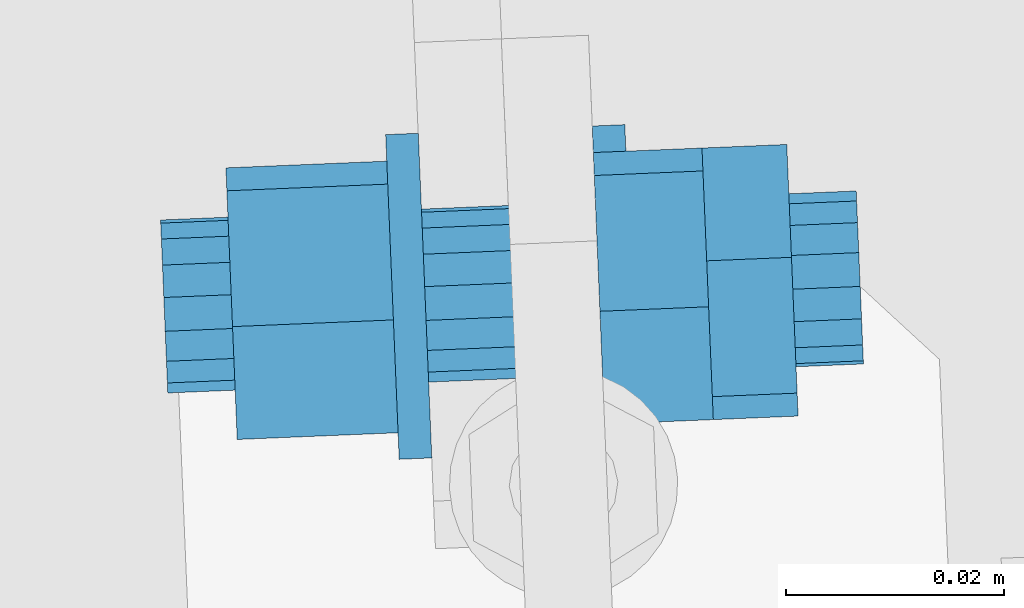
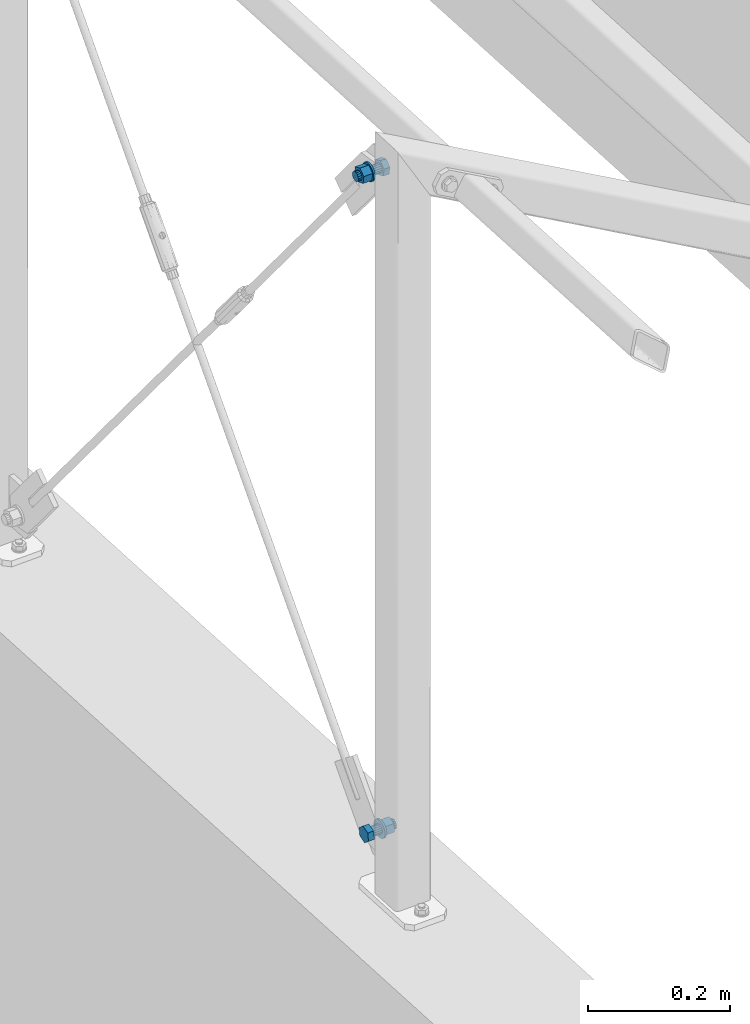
# One storey, part 222 of 288: 2 mechanical fasteners.
"""IFC2X3 building model written with IfcOpenShell, lengths in millimetres."""

from ifc_helpers import new_model, entity, si_unit, converted_unit, origin_with_axes, place, context, project, spatial, faceted_brep, element, save


model = new_model("IFC2X3")

# Units and contexts
model_context = context("Model", 3, precision=1e-09, world=origin_with_axes())
ifc_project = project(units=[si_unit("LENGTHUNIT", "METRE", prefix="MILLI"), si_unit("AREAUNIT", "SQUARE_METRE"), si_unit("VOLUMEUNIT", "CUBIC_METRE"), converted_unit("PLANEANGLEUNIT", "DEGREE", entity("IfcPlaneAngleMeasure", 0.01745329), si_unit("PLANEANGLEUNIT", "RADIAN"), dimensions=[0, 0, 0, 0, 0, 0, 0])], contexts=[model_context])

# Site, building, storey
site_placement = place(None, origin_with_axes())
site = spatial("IfcSite", under=ifc_project, at=site_placement, Name="Remont ?wietlik?w nad MC w NCPP w Opolu", CompositionType="ELEMENT")
building_placement = place(site_placement, origin_with_axes())
building = spatial("IfcBuilding", under=site, at=building_placement, Name="Konstrukcja 1", CompositionType="ELEMENT")
storey_placement = place(building_placement, origin_with_axes())
storey = spatial("IfcBuildingStorey", under=building, at=storey_placement, Name="Default Storey", CompositionType="ELEMENT", Elevation=0.0)

# Mechanical fasteners
mechanical_fastener_1_placement = place(None, origin_with_axes())
element("IfcMechanicalFastener", 1, at=mechanical_fastener_1_placement, inside=storey, ObjectType="Bolt#1", NominalDiameter=16.0, NominalLength=40.0, context=model_context, shape_type="Brep", body=[
    faceted_brep([(-433.647771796, 7109.61969111, 96.713451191), (-443.639085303, 7109.2029725, 96.713451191), (-443.118446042, 7096.720040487, 91.938938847), (-433.127132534, 7097.136759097, 91.938938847), (-443.030433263, 7094.609831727, 78.73174771), (-433.039119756, 7095.026550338, 78.73174771), (-443.463059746, 7104.98255498, 70.299068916), (-433.471746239, 7105.399273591, 70.299068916), (-443.983699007, 7117.465486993, 75.07358126), (-433.9923855, 7117.882205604, 75.07358126), (-444.071711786, 7119.575695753, 88.280772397), (-434.080398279, 7119.992414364, 88.280772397)], [[[0, 1, 2, 3]], [[3, 2, 4, 5]], [[5, 4, 6, 7]], [[7, 6, 8, 9]], [[9, 8, 10, 11]], [[11, 10, 1, 0]], [[4, 2, 1, 10, 8, 6]], [[0, 3, 5, 7, 9, 11]]]),
    faceted_brep([(-433.349572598, 7102.470018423, 77.29662037), (-417.363470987, 7103.1367682, 77.29662037), (-417.280444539, 7101.146112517, 79.699497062), (-433.26654615, 7100.47936274, 79.699497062), (-417.242057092, 7100.225728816, 82.681918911), (-433.228158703, 7099.558979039, 82.681918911), (-417.254152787, 7100.515737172, 85.789839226), (-433.240254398, 7099.848987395, 85.789839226), (-417.314890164, 7101.971986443, 88.550105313), (-433.300991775, 7101.305236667, 88.550105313), (-417.415022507, 7104.372775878, 90.542491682), (-433.401124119, 7103.706026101, 90.542491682), (-417.539305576, 7107.352607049, 91.463675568), (-433.525407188, 7106.685857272, 91.463675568), (-417.6688184, 7110.457827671, 91.173415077), (-433.654920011, 7109.791077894, 91.173415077), (-417.783843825, 7113.215696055, 89.715899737), (-433.769945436, 7112.548946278, 89.715899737), (-417.866870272, 7115.206351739, 87.313023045), (-433.852971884, 7114.539601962, 87.313023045), (-417.905257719, 7116.12673544, 84.330601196), (-433.891359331, 7115.459985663, 84.330601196), (-417.893162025, 7115.836727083, 81.22268088), (-433.879263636, 7115.169977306, 81.22268088), (-417.832424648, 7114.380477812, 78.462414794), (-433.818526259, 7113.713728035, 78.462414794), (-417.732292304, 7111.979688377, 76.470028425), (-433.718393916, 7111.3129386, 76.470028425), (-417.608009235, 7108.999857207, 75.548844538), (-433.594110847, 7108.33310743, 75.548844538), (-417.478496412, 7105.894636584, 75.839105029), (-433.464598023, 7105.227886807, 75.839105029)], [[[0, 1, 2, 3]], [[3, 2, 4, 5]], [[5, 4, 6, 7]], [[7, 6, 8, 9]], [[9, 8, 10, 11]], [[11, 10, 12, 13]], [[13, 12, 14, 15]], [[15, 14, 16, 17]], [[17, 16, 18, 19]], [[19, 18, 20, 21]], [[21, 20, 22, 23]], [[23, 22, 24, 25]], [[25, 24, 26, 27]], [[27, 26, 28, 29]], [[29, 28, 30, 31]], [[31, 30, 1, 0]], [[0, 3, 5, 7, 9, 11, 13, 15, 17, 19, 21, 23, 25, 27, 29, 31]], [[1, 30, 28, 26, 24, 22, 20, 18, 16, 14, 12, 10, 8, 6, 4, 2]]]),
    faceted_brep([(-417.17955787, 7098.727237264, 71.863185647), (-414.182163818, 7098.852252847, 71.863185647), (-414.095080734, 7096.764334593, 73.931914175), (-417.092474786, 7096.63931901, 73.931914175), (-414.026489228, 7095.11977344, 76.368579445), (-417.02388328, 7094.994757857, 76.368579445), (-413.979025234, 7093.981768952, 79.079541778), (-416.976419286, 7093.856753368, 79.079541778), (-413.954512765, 7093.394054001, 81.960620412), (-416.951906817, 7093.269038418, 81.960620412), (-413.953893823, 7093.379214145, 84.90109711), (-416.951287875, 7093.254198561, 84.90109711), (-413.977192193, 7093.93781967, 87.787971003), (-416.974586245, 7093.812804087, 87.787971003), (-414.023512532, 7095.048403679, 90.510301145), (-417.020906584, 7094.923388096, 90.510301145), (-414.091074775, 7096.668287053, 92.963469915), (-417.088468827, 7096.54327147, 92.963469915), (-414.177282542, 7098.735218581, 95.053203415), (-417.174676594, 7098.610202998, 95.053203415), (-414.278822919, 7101.169767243, 96.699194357), (-417.276216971, 7101.04475166, 96.699194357), (-414.391793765, 7103.878374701, 97.838188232), (-417.389187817, 7103.753359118, 97.838188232), (-414.511853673, 7106.756950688, 98.426414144), (-417.509247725, 7106.631935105, 98.426414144), (-414.63438881, 7109.694873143, 98.441266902), (-417.631782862, 7109.56985756, 98.441266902), (-414.754690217, 7112.579239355, 97.882175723), (-417.752084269, 7112.454223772, 97.882175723), (-414.868134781, 7115.299204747, 96.770626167), (-417.865528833, 7115.174189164, 96.770626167), (-414.970362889, 7117.750242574, 95.149334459), (-417.967756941, 7117.625226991, 95.149334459), (-415.057445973, 7119.838160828, 93.080605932), (-418.054840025, 7119.713145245, 93.080605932), (-415.126037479, 7121.482721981, 90.643940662), (-418.123431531, 7121.357706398, 90.643940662), (-415.173501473, 7122.62072647, 87.932978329), (-418.170895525, 7122.495710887, 87.932978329), (-415.198013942, 7123.208441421, 85.051899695), (-418.195407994, 7123.083425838, 85.051899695), (-415.198632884, 7123.223281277, 82.111422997), (-418.196026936, 7123.098265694, 82.111422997), (-415.175334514, 7122.664675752, 79.224549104), (-418.172728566, 7122.539660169, 79.224549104), (-415.129014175, 7121.554091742, 76.502218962), (-418.126408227, 7121.429076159, 76.502218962), (-415.061451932, 7119.934208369, 74.049050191), (-418.058845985, 7119.809192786, 74.049050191), (-414.975244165, 7117.867276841, 71.959316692), (-417.972638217, 7117.742261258, 71.959316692), (-414.873703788, 7115.432728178, 70.31332575), (-417.87109784, 7115.307712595, 70.31332575), (-414.760732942, 7112.724120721, 69.174331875), (-417.758126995, 7112.599105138, 69.174331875), (-414.640673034, 7109.845544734, 68.586105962), (-417.638067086, 7109.720529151, 68.586105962), (-414.518137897, 7106.907622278, 68.571253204), (-417.51553195, 7106.782606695, 68.571253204), (-414.39783649, 7104.023256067, 69.130344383), (-417.395230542, 7103.898240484, 69.130344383), (-414.284391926, 7101.303290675, 70.24189394), (-417.281785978, 7101.178275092, 70.24189394)], [[[0, 1, 2, 3]], [[3, 2, 4, 5]], [[5, 4, 6, 7]], [[7, 6, 8, 9]], [[9, 8, 10, 11]], [[11, 10, 12, 13]], [[13, 12, 14, 15]], [[15, 14, 16, 17]], [[17, 16, 18, 19]], [[19, 18, 20, 21]], [[21, 20, 22, 23]], [[23, 22, 24, 25]], [[25, 24, 26, 27]], [[27, 26, 28, 29]], [[29, 28, 30, 31]], [[31, 30, 32, 33]], [[33, 32, 34, 35]], [[35, 34, 36, 37]], [[37, 36, 38, 39]], [[39, 38, 40, 41]], [[41, 40, 42, 43]], [[43, 42, 44, 45]], [[45, 44, 46, 47]], [[47, 46, 48, 49]], [[49, 48, 50, 51]], [[51, 50, 52, 53]], [[53, 52, 54, 55]], [[55, 54, 56, 57]], [[57, 56, 58, 59]], [[59, 58, 60, 61]], [[61, 60, 62, 63]], [[63, 62, 1, 0]], [[0, 3, 5, 7, 9, 11, 13, 15, 17, 19, 21, 23, 25, 27, 29, 31, 33, 35, 37, 39, 41, 43, 45, 47, 49, 51, 53, 55, 57, 59, 61, 63]], [[1, 62, 60, 58, 56, 54, 52, 50, 48, 46, 44, 42, 40, 38, 36, 34, 32, 30, 28, 26, 24, 22, 20, 18, 16, 14, 12, 10, 8, 6, 4, 2]]]),
    faceted_brep([(-399.877132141, 7111.028200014, 96.713451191), (-414.664276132, 7110.411456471, 96.713451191), (-414.143636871, 7097.928524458, 91.938938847), (-399.35649288, 7098.545268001, 91.938938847), (-414.055624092, 7095.818315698, 78.73174771), (-399.268480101, 7096.435059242, 78.73174771), (-414.488250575, 7106.191038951, 70.299068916), (-399.701106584, 7106.807782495, 70.299068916), (-415.008889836, 7118.673970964, 75.07358126), (-400.221745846, 7119.290714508, 75.07358126), (-415.096902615, 7120.784179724, 88.280772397), (-400.309758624, 7121.400923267, 88.280772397)], [[[0, 1, 2, 3]], [[3, 2, 4, 5]], [[5, 4, 6, 7]], [[7, 6, 8, 9]], [[9, 8, 10, 11]], [[11, 10, 1, 0]], [[4, 2, 1, 10, 8, 6]], [[0, 3, 5, 7, 9, 11]]]),
    faceted_brep([(-399.578932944, 7103.878527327, 77.29662037), (-393.384318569, 7104.136892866, 77.29662037), (-393.301292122, 7102.146237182, 79.699497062), (-399.495906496, 7101.887871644, 79.699497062), (-393.262904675, 7101.225853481, 82.681918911), (-399.457519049, 7100.967487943, 82.681918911), (-393.275000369, 7101.515861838, 85.789839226), (-399.469614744, 7101.257496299, 85.789839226), (-393.335737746, 7102.972111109, 88.550105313), (-399.530352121, 7102.71374557, 88.550105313), (-393.43587009, 7105.372900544, 90.542491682), (-399.630484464, 7105.114535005, 90.542491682), (-393.560153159, 7108.352731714, 91.463675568), (-399.754767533, 7108.094366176, 91.463675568), (-393.689665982, 7111.457952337, 91.173415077), (-399.884280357, 7111.199586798, 91.173415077), (-393.804691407, 7114.21582072, 89.715899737), (-399.999305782, 7113.957455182, 89.715899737), (-393.887717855, 7116.206476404, 87.313023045), (-400.08233223, 7115.948110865, 87.313023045), (-393.926105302, 7117.126860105, 84.330601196), (-400.120719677, 7116.868494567, 84.330601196), (-393.914009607, 7116.836851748, 81.22268088), (-400.108623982, 7116.57848621, 81.22268088), (-393.85327223, 7115.380602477, 78.462414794), (-400.047886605, 7115.122236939, 78.462414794), (-393.753139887, 7112.979813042, 76.470028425), (-399.947754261, 7112.721447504, 76.470028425), (-393.628856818, 7109.999981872, 75.548844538), (-399.823471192, 7109.741616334, 75.548844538), (-393.499343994, 7106.89476125, 75.839105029), (-399.693958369, 7106.636395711, 75.839105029)], [[[0, 1, 2, 3]], [[3, 2, 4, 5]], [[5, 4, 6, 7]], [[7, 6, 8, 9]], [[9, 8, 10, 11]], [[11, 10, 12, 13]], [[13, 12, 14, 15]], [[15, 14, 16, 17]], [[17, 16, 18, 19]], [[19, 18, 20, 21]], [[21, 20, 22, 23]], [[23, 22, 24, 25]], [[25, 24, 26, 27]], [[27, 26, 28, 29]], [[29, 28, 30, 31]], [[31, 30, 1, 0]], [[0, 3, 5, 7, 9, 11, 13, 15, 17, 19, 21, 23, 25, 27, 29, 31]], [[1, 30, 28, 26, 24, 22, 20, 18, 16, 14, 12, 10, 8, 6, 4, 2]]]),
])
mechanical_fastener_2_placement = place(None, origin_with_axes())
element("IfcMechanicalFastener", 2, at=mechanical_fastener_2_placement, inside=storey, ObjectType="Bolt#1", NominalDiameter=16.0, NominalLength=40.0, context=model_context, shape_type="Brep", body=[
    faceted_brep([(-417.661670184, 7110.286440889, 1208.28654914), (-407.670356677, 7110.7031595, 1208.28654914), (-407.149717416, 7098.220227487, 1213.061061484), (-417.141030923, 7097.803508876, 1213.061061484), (-407.061704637, 7096.110018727, 1226.268252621), (-417.053018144, 7095.693300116, 1226.268252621), (-407.49433112, 7106.48274198, 1234.700931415), (-417.485644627, 7106.066023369, 1234.700931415), (-408.014970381, 7118.965673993, 1229.926419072), (-418.006283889, 7118.548955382, 1229.926419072), (-408.10298316, 7121.075882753, 1216.719227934), (-418.094296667, 7120.659164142, 1216.719227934)], [[[0, 1, 2, 3]], [[3, 2, 4, 5]], [[5, 4, 6, 7]], [[7, 6, 8, 9]], [[9, 8, 10, 11]], [[11, 10, 1, 0]], [[4, 2, 1, 10, 8, 6]], [[0, 3, 5, 7, 9, 11]]]),
    faceted_brep([(-417.363470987, 7103.136768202, 1227.703379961), (-433.349572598, 7102.470018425, 1227.703379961), (-433.26654615, 7100.479362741, 1225.300503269), (-417.280444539, 7101.146112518, 1225.300503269), (-433.228158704, 7099.55897904, 1222.31808142), (-417.242057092, 7100.225728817, 1222.31808142), (-433.240254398, 7099.848987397, 1219.210161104), (-417.254152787, 7100.515737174, 1219.210161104), (-433.300991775, 7101.305236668, 1216.449895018), (-417.314890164, 7101.971986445, 1216.449895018), (-433.401124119, 7103.706026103, 1214.457508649), (-417.415022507, 7104.37277588, 1214.457508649), (-433.525407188, 7106.685857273, 1213.536324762), (-417.539305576, 7107.35260705, 1213.536324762), (-433.654920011, 7109.791077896, 1213.826585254), (-417.6688184, 7110.457827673, 1213.826585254), (-433.769945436, 7112.548946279, 1215.284100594), (-417.783843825, 7113.215696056, 1215.284100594), (-433.852971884, 7114.539601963, 1217.686977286), (-417.866870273, 7115.20635174, 1217.686977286), (-433.891359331, 7115.459985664, 1220.669399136), (-417.905257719, 7116.126735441, 1220.669399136), (-433.879263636, 7115.169977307, 1223.777319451), (-417.893162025, 7115.836727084, 1223.777319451), (-433.818526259, 7113.713728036, 1226.537585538), (-417.832424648, 7114.380477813, 1226.537585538), (-433.718393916, 7111.312938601, 1228.529971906), (-417.732292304, 7111.979688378, 1228.529971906), (-433.594110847, 7108.333107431, 1229.451155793), (-417.608009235, 7108.999857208, 1229.451155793), (-433.464598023, 7105.227886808, 1229.160895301), (-417.478496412, 7105.894636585, 1229.160895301)], [[[0, 1, 2, 3]], [[3, 2, 4, 5]], [[5, 4, 6, 7]], [[7, 6, 8, 9]], [[9, 8, 10, 11]], [[11, 10, 12, 13]], [[13, 12, 14, 15]], [[15, 14, 16, 17]], [[17, 16, 18, 19]], [[19, 18, 20, 21]], [[21, 20, 22, 23]], [[23, 22, 24, 25]], [[25, 24, 26, 27]], [[27, 26, 28, 29]], [[29, 28, 30, 31]], [[31, 30, 1, 0]], [[0, 3, 5, 7, 9, 11, 13, 15, 17, 19, 21, 23, 25, 27, 29, 31]], [[1, 30, 28, 26, 24, 22, 20, 18, 16, 14, 12, 10, 8, 6, 4, 2]]]),
    faceted_brep([(-433.165659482, 7098.060487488, 1233.136814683), (-436.163053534, 7097.935471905, 1233.136814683), (-436.07597045, 7095.847553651, 1231.068086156), (-433.078576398, 7095.972569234, 1231.068086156), (-436.007378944, 7094.202992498, 1228.631420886), (-433.009984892, 7094.328008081, 1228.631420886), (-435.95991495, 7093.064988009, 1225.920458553), (-432.962520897, 7093.190003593, 1225.920458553), (-435.935402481, 7092.477273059, 1223.039379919), (-432.938008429, 7092.602288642, 1223.039379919), (-435.934783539, 7092.462433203, 1220.09890322), (-432.937389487, 7092.587448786, 1220.09890322), (-435.958081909, 7093.021038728, 1217.212029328), (-432.960687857, 7093.146054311, 1217.212029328), (-436.004402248, 7094.131622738, 1214.489699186), (-433.007008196, 7094.256638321, 1214.489699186), (-436.07196449, 7095.751506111, 1212.036530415), (-433.074570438, 7095.876521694, 1212.036530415), (-436.158172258, 7097.818437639, 1209.946796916), (-433.160778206, 7097.943453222, 1209.946796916), (-436.259712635, 7100.252986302, 1208.300805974), (-433.262318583, 7100.378001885, 1208.300805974), (-436.372683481, 7102.961593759, 1207.161812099), (-433.375289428, 7103.086609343, 1207.161812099), (-436.492743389, 7105.840169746, 1206.573586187), (-433.495349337, 7105.965185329, 1206.573586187), (-436.615278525, 7108.778092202, 1206.558733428), (-433.617884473, 7108.903107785, 1206.558733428), (-436.735579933, 7111.662458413, 1207.117824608), (-433.738185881, 7111.787473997, 1207.117824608), (-436.849024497, 7114.382423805, 1208.229374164), (-433.851630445, 7114.507439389, 1208.229374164), (-436.951252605, 7116.833461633, 1209.850665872), (-433.953858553, 7116.958477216, 1209.850665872), (-437.038335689, 7118.921379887, 1211.919394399), (-434.040941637, 7119.04639547, 1211.919394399), (-437.106927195, 7120.565941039, 1214.356059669), (-434.109533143, 7120.690956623, 1214.356059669), (-437.154391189, 7121.703945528, 1217.067022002), (-434.156997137, 7121.828961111, 1217.067022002), (-437.178903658, 7122.291660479, 1219.948100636), (-434.181509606, 7122.416676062, 1219.948100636), (-437.1795226, 7122.306500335, 1222.888577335), (-434.182128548, 7122.431515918, 1222.888577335), (-437.15622423, 7121.74789481, 1225.775451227), (-434.158830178, 7121.872910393, 1225.775451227), (-437.109903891, 7120.6373108, 1228.497781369), (-434.112509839, 7120.762326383, 1228.497781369), (-437.042341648, 7119.017427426, 1230.95095014), (-434.044947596, 7119.14244301, 1230.95095014), (-436.956133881, 7116.950495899, 1233.040683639), (-433.958739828, 7117.075511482, 1233.040683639), (-436.854593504, 7114.515947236, 1234.686674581), (-433.857199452, 7114.640962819, 1234.686674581), (-436.741622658, 7111.807339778, 1235.825668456), (-433.744228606, 7111.932355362, 1235.825668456), (-436.62156275, 7108.928763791, 1236.413894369), (-433.624168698, 7109.053779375, 1236.413894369), (-436.499027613, 7105.990841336, 1236.428747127), (-433.501633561, 7106.115856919, 1236.428747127), (-436.378726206, 7103.106475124, 1235.869655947), (-433.381332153, 7103.231490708, 1235.869655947), (-436.265281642, 7100.386509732, 1234.758106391), (-433.26788759, 7100.511525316, 1234.758106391)], [[[0, 1, 2, 3]], [[3, 2, 4, 5]], [[5, 4, 6, 7]], [[7, 6, 8, 9]], [[9, 8, 10, 11]], [[11, 10, 12, 13]], [[13, 12, 14, 15]], [[15, 14, 16, 17]], [[17, 16, 18, 19]], [[19, 18, 20, 21]], [[21, 20, 22, 23]], [[23, 22, 24, 25]], [[25, 24, 26, 27]], [[27, 26, 28, 29]], [[29, 28, 30, 31]], [[31, 30, 32, 33]], [[33, 32, 34, 35]], [[35, 34, 36, 37]], [[37, 36, 38, 39]], [[39, 38, 40, 41]], [[41, 40, 42, 43]], [[43, 42, 44, 45]], [[45, 44, 46, 47]], [[47, 46, 48, 49]], [[49, 48, 50, 51]], [[51, 50, 52, 53]], [[53, 52, 54, 55]], [[55, 54, 56, 57]], [[57, 56, 58, 59]], [[59, 58, 60, 61]], [[61, 60, 62, 63]], [[63, 62, 1, 0]], [[0, 3, 5, 7, 9, 11, 13, 15, 17, 19, 21, 23, 25, 27, 29, 31, 33, 35, 37, 39, 41, 43, 45, 47, 49, 51, 53, 55, 57, 59, 61, 63]], [[1, 62, 60, 58, 56, 54, 52, 50, 48, 46, 44, 42, 40, 38, 36, 34, 32, 30, 28, 26, 24, 22, 20, 18, 16, 14, 12, 10, 8, 6, 4, 2]]]),
    faceted_brep([(-451.432309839, 7108.877931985, 1208.28654914), (-436.645165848, 7109.494675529, 1208.28654914), (-436.124526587, 7097.011743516, 1213.061061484), (-450.911670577, 7096.394999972, 1213.061061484), (-436.036513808, 7094.901534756, 1226.268252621), (-450.823657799, 7094.284791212, 1226.268252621), (-436.469140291, 7105.274258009, 1234.700931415), (-451.256284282, 7104.657514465, 1234.700931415), (-436.989779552, 7117.757190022, 1229.926419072), (-451.776923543, 7117.140446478, 1229.926419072), (-437.077792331, 7119.867398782, 1216.719227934), (-451.864936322, 7119.250655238, 1216.719227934)], [[[0, 1, 2, 3]], [[3, 2, 4, 5]], [[5, 4, 6, 7]], [[7, 6, 8, 9]], [[9, 8, 10, 11]], [[11, 10, 1, 0]], [[4, 2, 1, 10, 8, 6]], [[0, 3, 5, 7, 9, 11]]]),
    faceted_brep([(-451.134110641, 7101.728259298, 1227.703379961), (-457.328725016, 7101.469893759, 1227.703379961), (-457.245698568, 7099.479238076, 1225.300503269), (-451.051084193, 7099.737603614, 1225.300503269), (-457.207311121, 7098.558854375, 1222.31808142), (-451.012696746, 7098.817219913, 1222.31808142), (-457.219406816, 7098.848862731, 1219.210161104), (-451.024792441, 7099.10722827, 1219.210161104), (-457.280144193, 7100.305112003, 1216.449895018), (-451.085529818, 7100.563477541, 1216.449895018), (-457.380276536, 7102.705901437, 1214.457508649), (-451.185662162, 7102.964266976, 1214.457508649), (-457.504559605, 7105.685732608, 1213.536324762), (-451.309945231, 7105.944098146, 1213.536324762), (-457.634072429, 7108.79095323, 1213.826585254), (-451.439458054, 7109.049318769, 1213.826585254), (-457.749097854, 7111.548821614, 1215.284100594), (-451.554483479, 7111.807187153, 1215.284100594), (-457.832124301, 7113.539477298, 1217.686977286), (-451.637509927, 7113.797842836, 1217.686977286), (-457.870511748, 7114.459860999, 1220.669399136), (-451.675897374, 7114.718226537, 1220.669399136), (-457.858416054, 7114.169852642, 1223.777319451), (-451.663801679, 7114.42821818, 1223.777319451), (-457.797678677, 7112.713603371, 1226.537585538), (-451.603064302, 7112.971968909, 1226.537585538), (-457.697546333, 7110.312813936, 1228.529971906), (-451.502931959, 7110.571179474, 1228.529971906), (-457.573263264, 7107.332982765, 1229.451155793), (-451.37864889, 7107.591348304, 1229.451155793), (-457.443750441, 7104.227762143, 1229.160895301), (-451.249136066, 7104.486127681, 1229.160895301)], [[[0, 1, 2, 3]], [[3, 2, 4, 5]], [[5, 4, 6, 7]], [[7, 6, 8, 9]], [[9, 8, 10, 11]], [[11, 10, 12, 13]], [[13, 12, 14, 15]], [[15, 14, 16, 17]], [[17, 16, 18, 19]], [[19, 18, 20, 21]], [[21, 20, 22, 23]], [[23, 22, 24, 25]], [[25, 24, 26, 27]], [[27, 26, 28, 29]], [[29, 28, 30, 31]], [[31, 30, 1, 0]], [[0, 3, 5, 7, 9, 11, 13, 15, 17, 19, 21, 23, 25, 27, 29, 31]], [[1, 30, 28, 26, 24, 22, 20, 18, 16, 14, 12, 10, 8, 6, 4, 2]]]),
])

save(model, "model.ifc")
